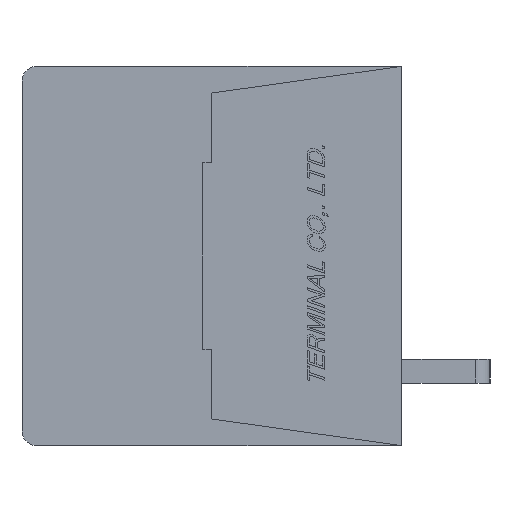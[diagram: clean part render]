
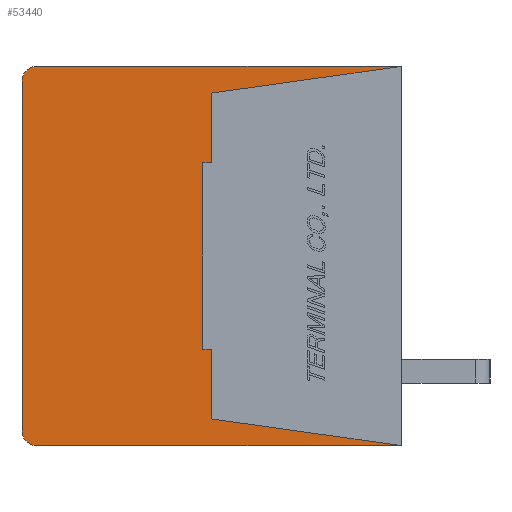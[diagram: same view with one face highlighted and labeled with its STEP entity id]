
A CAD part, left-side view. The second image highlights one B-rep face of the part: STEP entity #53440.
In plain terms, the highlighted planar face has unit normal (-1, 0, 0).
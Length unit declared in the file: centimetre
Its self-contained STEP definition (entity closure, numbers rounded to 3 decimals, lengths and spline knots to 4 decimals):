
#2712=CIRCLE('',#91649,0.05);
#2713=CIRCLE('',#91652,0.05);
#4630=VERTEX_POINT('',#73975);
#4631=VERTEX_POINT('',#73977);
#4632=VERTEX_POINT('',#73981);
#4633=VERTEX_POINT('',#73985);
#4634=VERTEX_POINT('',#73989);
#4635=VERTEX_POINT('',#73993);
#4636=VERTEX_POINT('',#73997);
#4637=VERTEX_POINT('',#73999);
#4638=VERTEX_POINT('',#74001);
#4639=VERTEX_POINT('',#74003);
#4640=VERTEX_POINT('',#74005);
#4641=VERTEX_POINT('',#74007);
#10280=VECTOR('',#61978,1.);
#10284=VECTOR('',#61987,1.);
#10287=VECTOR('',#61995,1.);
#10288=VECTOR('',#61997,1.);
#10289=VECTOR('',#61998,1.);
#10290=VECTOR('',#61999,1.);
#10291=VECTOR('',#62000,1.);
#10292=VECTOR('',#62001,1.);
#10293=VECTOR('',#62002,1.);
#10294=VECTOR('',#62003,1.);
#16564=LINE('',#73976,#10280);
#16568=LINE('',#73986,#10284);
#16571=LINE('',#73994,#10287);
#16572=LINE('',#73996,#10288);
#16573=LINE('',#73998,#10289);
#16574=LINE('',#74000,#10290);
#16575=LINE('',#74002,#10291);
#16576=LINE('',#74004,#10292);
#16577=LINE('',#74006,#10293);
#16578=LINE('',#74008,#10294);
#23540=EDGE_CURVE('',#4631,#4630,#16564,.T.);
#23543=EDGE_CURVE('',#4632,#4630,#2712,.T.);
#23545=EDGE_CURVE('',#4632,#4633,#16568,.T.);
#23547=EDGE_CURVE('',#4634,#4633,#2713,.T.);
#23549=EDGE_CURVE('',#4634,#4635,#16571,.T.);
#23550=EDGE_CURVE('',#4636,#4631,#16572,.T.);
#23551=EDGE_CURVE('',#4635,#4637,#16573,.T.);
#23552=EDGE_CURVE('',#4637,#4638,#16574,.T.);
#23553=EDGE_CURVE('',#4638,#4639,#16575,.T.);
#23554=EDGE_CURVE('',#4639,#4640,#16576,.T.);
#23555=EDGE_CURVE('',#4640,#4641,#16577,.T.);
#23556=EDGE_CURVE('',#4641,#4636,#16578,.T.);
#34253=ORIENTED_EDGE('',*,*,#23550,.T.);
#34254=ORIENTED_EDGE('',*,*,#23540,.T.);
#34255=ORIENTED_EDGE('',*,*,#23543,.F.);
#34256=ORIENTED_EDGE('',*,*,#23545,.T.);
#34257=ORIENTED_EDGE('',*,*,#23547,.F.);
#34258=ORIENTED_EDGE('',*,*,#23549,.T.);
#34259=ORIENTED_EDGE('',*,*,#23551,.T.);
#34260=ORIENTED_EDGE('',*,*,#23552,.T.);
#34261=ORIENTED_EDGE('',*,*,#23553,.T.);
#34262=ORIENTED_EDGE('',*,*,#23554,.T.);
#34263=ORIENTED_EDGE('',*,*,#23555,.T.);
#34264=ORIENTED_EDGE('',*,*,#23556,.T.);
#46506=EDGE_LOOP('',(#34253,#34254,#34255,#34256,#34257,#34258,#34259,#34260,
#34261,#34262,#34263,#34264));
#50046=FACE_BOUND('',#46506,.T.);
#53440=ADVANCED_FACE('',(#50046),#56402,.F.);
#56402=PLANE('',#91654);
#61978=DIRECTION('',(0.,1.,0.));
#61983=DIRECTION('',(1.,0.,0.));
#61984=DIRECTION('',(0.,0.,-0.05));
#61987=DIRECTION('',(0.,0.,-1.));
#61991=DIRECTION('',(1.,0.,0.));
#61992=DIRECTION('',(0.,0.,-0.05));
#61995=DIRECTION('',(0.,-1.,0.));
#61996=DIRECTION('',(1.,0.,0.));
#61997=DIRECTION('',(0.,-0.99,0.139));
#61998=DIRECTION('',(0.,0.99,0.139));
#61999=DIRECTION('',(0.,0.,1.));
#62000=DIRECTION('',(0.,1.,0.));
#62001=DIRECTION('',(0.,0.,1.));
#62002=DIRECTION('',(0.,-1.,0.));
#62003=DIRECTION('',(0.,0.,1.));
#73975=CARTESIAN_POINT('',(-0.889,1.23,0.64));
#73976=CARTESIAN_POINT('',(-0.889,0.,0.64));
#73977=CARTESIAN_POINT('',(-0.889,0.,0.64));
#73981=CARTESIAN_POINT('',(-0.889,1.28,0.59));
#73982=CARTESIAN_POINT('',(-0.889,1.23,0.59));
#73985=CARTESIAN_POINT('',(-0.889,1.28,-0.59));
#73986=CARTESIAN_POINT('',(-0.889,1.28,0.59));
#73989=CARTESIAN_POINT('',(-0.889,1.23,-0.64));
#73990=CARTESIAN_POINT('',(-0.889,1.23,-0.59));
#73993=CARTESIAN_POINT('',(-0.889,0.,-0.64));
#73994=CARTESIAN_POINT('',(-0.889,1.23,-0.64));
#73995=CARTESIAN_POINT('',(-0.889,0.6345,0.));
#73996=CARTESIAN_POINT('',(-0.889,0.64,0.55));
#73997=CARTESIAN_POINT('',(-0.889,0.64,0.55));
#73998=CARTESIAN_POINT('',(-0.889,0.,-0.64));
#73999=CARTESIAN_POINT('',(-0.889,0.64,-0.55));
#74000=CARTESIAN_POINT('',(-0.889,0.64,-0.55));
#74001=CARTESIAN_POINT('',(-0.889,0.64,-0.315));
#74002=CARTESIAN_POINT('',(-0.889,0.64,-0.315));
#74003=CARTESIAN_POINT('',(-0.889,0.67,-0.315));
#74004=CARTESIAN_POINT('',(-0.889,0.67,-0.315));
#74005=CARTESIAN_POINT('',(-0.889,0.67,0.315));
#74006=CARTESIAN_POINT('',(-0.889,0.67,0.315));
#74007=CARTESIAN_POINT('',(-0.889,0.64,0.315));
#74008=CARTESIAN_POINT('',(-0.889,0.64,0.315));
#91649=AXIS2_PLACEMENT_3D('',#73982,#61983,#61984);
#91652=AXIS2_PLACEMENT_3D('',#73990,#61991,#61992);
#91654=AXIS2_PLACEMENT_3D('',#73995,#61996,$);
